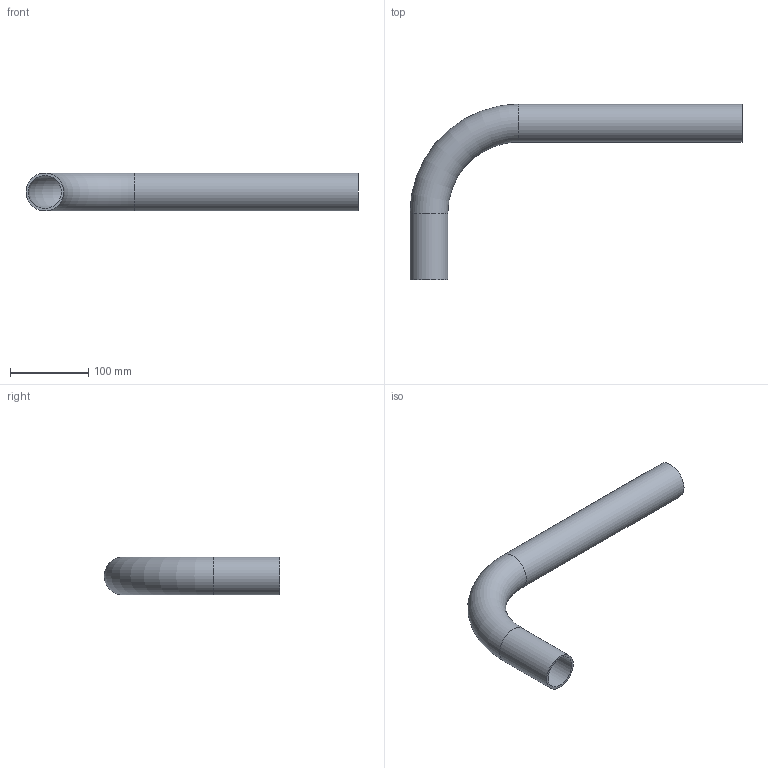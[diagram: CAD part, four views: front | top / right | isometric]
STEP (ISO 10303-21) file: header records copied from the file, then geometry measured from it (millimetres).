
FILE_DESCRIPTION (( 'STEP AP203' ), '1' );
FILE_NAME ('TK048.L.0200.0400.STEP', '2026-07-30T04:57:23', ( '' ), ( '' ), 'SwSTEP 2.0', 'SolidWorks 2022', '' );
FILE_SCHEMA (( 'CONFIG_CONTROL_DESIGN' ));
Length unit declared in the file: millimetre
Products named in the file (1): TK048.L.0200.0400
Bounding box: 424.15 x 224.15 x 48.3 mm (x, y, z)
Volume: 235092.3 mm3; surface area: 157582.1 mm2
Topology: 1 solids, 1 shells, 8 faces, 14 edges, 8 vertices
Faces by surface type: cylinder 4, torus 2, plane 2
Full cylindrical faces by diameter (mm): 42.3 x2, 48.3 x2
Entity records: 245 total; most frequent: DIRECTION 34, CARTESIAN_POINT 25, AXIS2_PLACEMENT_3D 17, ORIENTED_EDGE 16, EDGE_LOOP 16, FACE_OUTER_BOUND 14, EDGE_CURVE 8, CIRCLE 8
